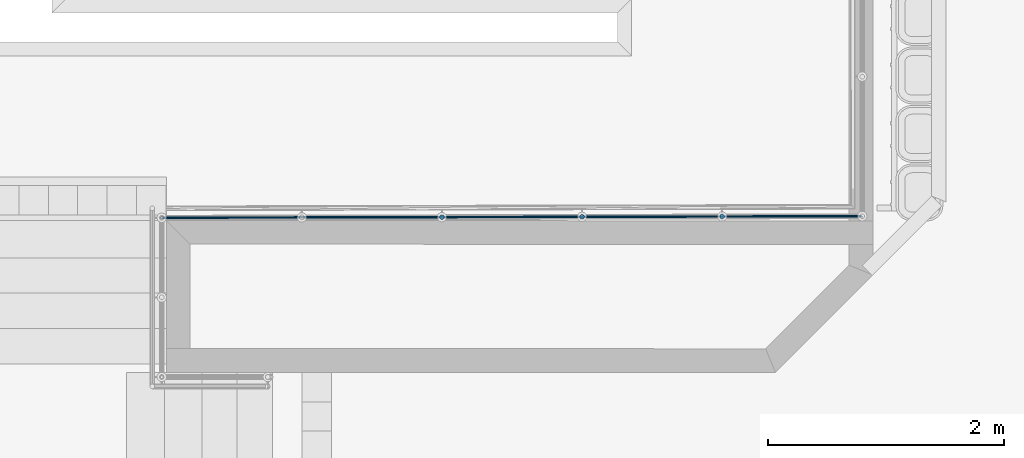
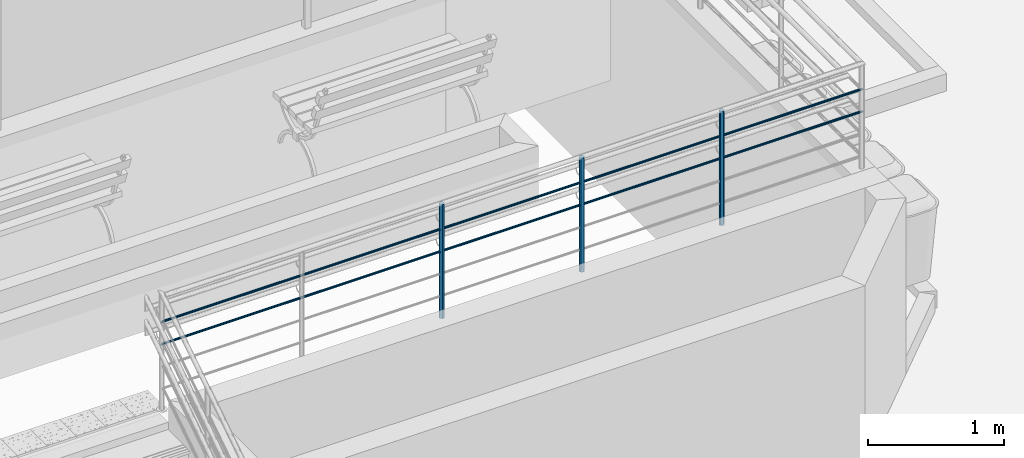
# One storey, part 69 of 237: 5 building element parts, 1 element without a shape of its own.
"""IFC2X3 building model written with IfcOpenShell, lengths in millimetres."""

from ifc_helpers import new_model, entity, si_unit, converted_unit, derived_unit, money_unit, direction, frame, origin_with_axes, place, context, subcontext, project, spatial, faceted_brep, material, type_object, element, aggregate, save


model = new_model("IFC2X3")

# Units and contexts
model_context = context("Model", 3, precision=0.01, world=origin_with_axes(), true_north=direction((0.0, 1.0)))
body_context = subcontext(model_context, "Body", "Model", "MODEL_VIEW")
ifc_project = project(units=[si_unit("LENGTHUNIT", "METRE", prefix="MILLI"), si_unit("AREAUNIT", "SQUARE_METRE"), si_unit("VOLUMEUNIT", "CUBIC_METRE"), converted_unit("PLANEANGLEUNIT", "DEGREE", entity("IfcPlaneAngleMeasure", 0.0174532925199), si_unit("PLANEANGLEUNIT", "RADIAN"), dimensions=[0, 0, 0, 0, 0, 0, 0]), money_unit("USD"), converted_unit("TIMEUNIT", "Year", entity("IfcTimeMeasure", 31556926.0), si_unit("TIMEUNIT", "SECOND"), dimensions=[0, 0, 1, 0, 0, 0, 0]), si_unit("MASSUNIT", "GRAM", prefix="KILO"), si_unit("THERMODYNAMICTEMPERATUREUNIT", "DEGREE_CELSIUS"), si_unit("LUMINOUSINTENSITYUNIT", "LUMEN"), si_unit("ENERGYUNIT", "JOULE", prefix="MEGA"), derived_unit("THERMALCONDUCTANCEUNIT", [(si_unit("POWERUNIT", "WATT"), 1), (si_unit("LENGTHUNIT", "METRE"), -1), (si_unit("THERMODYNAMICTEMPERATUREUNIT", "KELVIN"), -1)]), derived_unit("SPECIFICHEATCAPACITYUNIT", [(si_unit("ENERGYUNIT", "JOULE"), 1), (si_unit("MASSUNIT", "GRAM", prefix="KILO"), -1), (si_unit("THERMODYNAMICTEMPERATUREUNIT", "KELVIN"), -1)]), derived_unit("MASSDENSITYUNIT", [(si_unit("MASSUNIT", "GRAM", prefix="KILO"), 1), (si_unit("VOLUMEUNIT", "CUBIC_METRE"), -1)])], contexts=[model_context])

# Site, building, storey
site_placement = place(None, origin_with_axes())
site = spatial("IfcSite", under=ifc_project, at=site_placement, Name="Local", CompositionType="ELEMENT")
building_placement = place(site_placement, origin_with_axes())
building = spatial("IfcBuilding", under=site, at=building_placement, Name="Construção", CompositionType="ELEMENT")
storey_placement = place(building_placement, origin_with_axes())
storey = spatial("IfcBuildingStorey", under=building, at=storey_placement, Name="Pavimento Térreo", CompositionType="ELEMENT", Elevation=0.0)

# Railing, building element parts
railing_type = type_object("IfcRailingType", Name="Tipo de Guarda-Corpo", PredefinedType="NOTDEFINED")
railing_placement = place(storey_placement, frame((84562.8908804, 21657.2175927, -4868.39227091), z_axis=(0.0, 0.0, 1.0), x_axis=(1.0, 0.0, 0.0)))
railing = element("IfcRailing", 1, at=railing_placement, inside=storey, type_object=railing_type, Name="Guarda-Corpo - 002", PredefinedType="NOTDEFINED")
ifc_material = material(Name="Aço - Inoxidável")
building_element_part_1_placement = place(railing_placement, origin_with_axes())
building_element_part_1 = element("IfcBuildingElementPart", 2, at=building_element_part_1_placement, material=ifc_material, Name="Aço - Inoxidável", context=body_context, shape_type="Brep", body=[
    faceted_brep([(-3843.77565003, 2025.110839, 1951.51033696), (-3843.32082562, 2023.42810791, 1951.96127579), (-3842.58070981, 2021.84992076, 1952.69759917), (-3841.57778776, 2020.42422998, 1953.69693717), (-3840.34253565, 2019.19435445, 1954.92892253), (-3838.91247321, 2018.19765666, 1956.35613474), (-3837.33107074, 2017.46443222, 1957.93519015), (-3835.64637053, 2017.01695764, 1959.61811776), (-3833.90956136, 2016.86883222, 1961.35378267), (-3832.17391982, 2017.02449776, 1963.08894316), (-3830.49068167, 2017.47937857, 1964.77237772), (-3828.91249367, 2018.21950372, 1966.351434), (-3827.48834022, 2019.22134686, 1967.77709944), (-3826.25693786, 2020.45768144, 1969.01061642), (-3825.26169578, 2021.88565835, 1970.00850281), (-3824.52817872, 2023.46664852, 1970.74512169), (-3824.07954091, 2025.15384935, 1971.19722769), (-3823.93165735, 2026.88773952, 1971.34882346), (-3824.08711498, 2028.62680466, 1971.19723277), (-3824.54193692, 2030.30953335, 1970.74629641), (-3825.28205202, 2031.88771683, 1970.00997373), (-3826.2836818, 2033.31156698, 1969.01192336), (-3827.52024547, 2034.543289, 1967.7786311), (-3828.95029959, 2035.53997236, 1966.35142717), (-3830.53078996, 2036.27277056, 1964.77328251), (-3832.21640016, 2036.72065754, 1963.08944623), (-3833.95320798, 2036.86878459, 1961.35378267), (-3835.68935407, 2036.71307031, 1959.61811776), (-3837.37208515, 2036.2582435, 1957.93519015), (-3838.95027229, 2035.51812447, 1956.35613474), (-3840.37595737, 2034.51520686, 1954.92893606), (-3841.60583506, 2033.27995158, 1953.69694538), (-3842.60252716, 2031.84989696, 1952.69760513), (-3843.3357517, 2030.26849449, 1951.96127773), (-3843.7832277, 2028.58379428, 1951.51033844), (-3843.93136117, 2026.8469851, 1951.3584865), (-3833.93222885, 2025.13232065, 1951.50570623), (2112.2204447, 2038.09262627, 1948.70871255), (-3833.92834214, 2023.44860547, 1951.9568575), (2113.90489977, 2036.41332095, 1949.15986296), (-3833.92454788, 2021.86881142, 1952.69352959), (2115.48590382, 2034.83818084, 1949.89653365), (-3833.92096134, 2020.44093975, 1953.69333909), (2116.91541884, 2033.41506579, 1950.89634124), (-3833.91769152, 2019.20837562, 1954.92590728), (2118.15000976, 2032.18721643, 1952.12890708), (-3833.91483775, 2018.20856986, 1956.35378322), (2119.15216413, 2031.19194033, 1953.5567803), (-3833.91248676, 2017.47190106, 1957.93358161), (2119.89143202, 2030.45947846, 1955.13657568), (-3833.91070996, 2017.02075254, 1959.61730109), (2120.34535114, 2030.0120863, 1956.82029194), (2120.50012938, 2029.86335764, 1958.55677021), (2120.35106389, 2030.01781152, 1960.29324848), (2119.90268395, 2030.47075493, 1961.97696474), (2119.16861336, 2031.20842543, 1963.55676012), (2118.17115647, 2032.20840926, 1964.98463334), (2116.94062052, 2033.44032243, 1966.21719918), (2115.51439471, 2034.86673387, 1967.21700677), (2113.9358142, 2036.4443028, 1967.95367746), (2112.25284335, 2038.12509558, 1968.40482787), (2110.51661838, 2039.85804217, 1968.55675003), (2108.77989361, 2041.59048788, 1968.40482787), (2107.09543854, 2043.2697932, 1967.95367746), (2105.51443448, 2044.84493331, 1967.21700677), (2104.08491946, 2046.26804836, 1966.21719918), (2102.85032854, 2047.49589772, 1964.98463334), (2101.84817417, 2048.49117382, 1963.55676012), (2101.10890628, 2049.22363569, 1961.97696474), (2100.65498717, 2049.67102785, 1960.29324848), (-3833.95369349, 2036.7168607, 1959.61730109), (2100.50020892, 2049.81975651, 1958.55677021), (-3833.95350116, 2036.26570873, 1957.93358161), (2100.64927441, 2049.66530263, 1956.82029194), (-3833.95263683, 2035.52903669, 1956.35378322), (2101.09765435, 2049.21235922, 1955.13657568), (2101.83172494, 2048.47468872, 1953.5567803), (-3833.95112677, 2034.529228, 1954.92590728), (-3833.94901685, 2033.29666133, 1953.69333909), (2102.82918183, 2047.47470489, 1952.12890708), (-3833.94637119, 2031.86878761, 1952.69352959), (2104.05971778, 2046.24279172, 1950.89634124), (2105.48594359, 2044.81638028, 1949.89653365), (-3833.94327016, 2030.28899205, 1951.9568575), (2107.0645241, 2043.23881135, 1949.15986296), (-3833.93980801, 2028.60527594, 1951.50570623), (2108.74749496, 2041.55801857, 1948.70871255), (-3833.93608991, 2026.86879814, 1951.35378378), (2110.48371992, 2039.82507198, 1948.55679039)], [[[0, 1, 2, 3, 4, 5, 6, 7, 8, 9, 10, 11, 12, 13, 14, 15, 16, 17, 18, 19, 20, 21, 22, 23, 24, 25, 26, 27, 28, 29, 30, 31, 32, 33, 34, 35]], [[1, 0, 36, 37, 38]], [[2, 1, 38, 39, 40]], [[3, 2, 40, 41, 42]], [[4, 3, 42, 43, 44]], [[5, 4, 44, 45, 46]], [[6, 5, 46, 47, 48]], [[7, 6, 48, 49, 50]], [[7, 50, 51, 8]], [[9, 8, 52]], [[10, 9, 53]], [[11, 10, 54]], [[12, 11, 55]], [[13, 12, 56]], [[14, 13, 57]], [[15, 14, 58]], [[16, 15, 59]], [[17, 16, 60]], [[18, 17, 61]], [[19, 18, 62]], [[20, 19, 63]], [[21, 20, 64]], [[22, 21, 65]], [[23, 22, 66]], [[24, 23, 67]], [[25, 24, 68]], [[26, 25, 69]], [[70, 27, 26, 71]], [[72, 28, 27, 70, 73]], [[74, 29, 28, 72, 75]], [[30, 29, 74, 76, 77]], [[78, 31, 30, 77, 79]], [[80, 32, 31, 78, 81]], [[33, 32, 80, 82, 83]], [[34, 33, 83, 84, 85]], [[35, 34, 85, 86, 87]], [[0, 35, 87, 88, 36]], [[36, 88, 37]], [[39, 38, 37]], [[41, 40, 39]], [[43, 42, 41]], [[44, 43, 45]], [[47, 46, 45]], [[48, 47, 49]], [[50, 49, 51]], [[8, 51, 52]], [[53, 9, 52]], [[54, 10, 53]], [[55, 11, 54]], [[56, 12, 55]], [[57, 13, 56]], [[58, 14, 57]], [[15, 58, 59]], [[59, 60, 16]], [[61, 17, 60]], [[62, 18, 61]], [[63, 19, 62]], [[64, 20, 63]], [[64, 65, 21]], [[65, 66, 22]], [[66, 67, 23]], [[68, 24, 67]], [[69, 25, 68]], [[71, 26, 69]], [[73, 70, 71]], [[75, 72, 73]], [[76, 74, 75]], [[79, 77, 76]], [[81, 78, 79]], [[82, 80, 81]], [[84, 83, 82]], [[85, 84, 86]], [[87, 86, 88]], [[82, 81, 79, 76, 75, 73, 71, 69, 68, 67, 66, 65, 64, 63, 62, 61, 60, 59, 58, 57, 56, 55, 54, 53, 52, 51, 49, 47, 45, 43, 41, 39, 37, 88, 86, 84]]]),
])
building_element_part_2_placement = place(railing_placement, origin_with_axes())
building_element_part_2 = element("IfcBuildingElementPart", 3, at=building_element_part_2_placement, material=ifc_material, Name="Aço - Inoxidável", context=body_context, shape_type="Brep", body=[
    faceted_brep([(-3843.77565003, 2025.110839, 2151.51033696), (-3843.32082562, 2023.42810791, 2151.96127579), (-3842.58070981, 2021.84992076, 2152.69759917), (-3841.57778776, 2020.42422998, 2153.69693717), (-3840.34253565, 2019.19435445, 2154.92892253), (-3838.91247321, 2018.19765666, 2156.35613474), (-3837.33107074, 2017.46443222, 2157.93519015), (-3835.64637053, 2017.01695764, 2159.61811776), (-3833.90956136, 2016.86883222, 2161.35378267), (-3832.17391982, 2017.02449776, 2163.08894316), (-3830.49068167, 2017.47937857, 2164.77237772), (-3828.91249367, 2018.21950372, 2166.351434), (-3827.48834022, 2019.22134686, 2167.77709944), (-3826.25693786, 2020.45768144, 2169.01061642), (-3825.26169578, 2021.88565835, 2170.00850281), (-3824.52817872, 2023.46664852, 2170.74512169), (-3824.07954091, 2025.15384935, 2171.19722769), (-3823.93165735, 2026.88773952, 2171.34882346), (-3824.08711498, 2028.62680466, 2171.19723277), (-3824.54193692, 2030.30953335, 2170.74629641), (-3825.28205202, 2031.88771683, 2170.00997373), (-3826.2836818, 2033.31156698, 2169.01192336), (-3827.52024547, 2034.543289, 2167.7786311), (-3828.95029959, 2035.53997236, 2166.35142717), (-3830.53078996, 2036.27277056, 2164.77328251), (-3832.21640016, 2036.72065754, 2163.08944623), (-3833.95320798, 2036.86878459, 2161.35378267), (-3835.68935407, 2036.71307031, 2159.61811776), (-3837.37208515, 2036.2582435, 2157.93519015), (-3838.95027229, 2035.51812447, 2156.35613474), (-3840.37595737, 2034.51520686, 2154.92893606), (-3841.60583506, 2033.27995158, 2153.69694538), (-3842.60252716, 2031.84989696, 2152.69760513), (-3843.3357517, 2030.26849449, 2151.96127773), (-3843.7832277, 2028.58379428, 2151.51033844), (-3843.93136117, 2026.8469851, 2151.3584865), (-3833.93222885, 2025.13232065, 2151.50570623), (2112.2204447, 2038.09262627, 2148.70871255), (-3833.92834214, 2023.44860547, 2151.9568575), (2113.90489977, 2036.41332095, 2149.15986296), (-3833.92454788, 2021.86881142, 2152.69352959), (2115.48590382, 2034.83818084, 2149.89653365), (-3833.92096134, 2020.44093975, 2153.69333909), (2116.91541884, 2033.41506579, 2150.89634124), (-3833.91769152, 2019.20837562, 2154.92590728), (2118.15000976, 2032.18721643, 2152.12890708), (-3833.91483775, 2018.20856986, 2156.35378322), (2119.15216413, 2031.19194033, 2153.5567803), (-3833.91248676, 2017.47190106, 2157.93358161), (2119.89143202, 2030.45947846, 2155.13657568), (-3833.91070996, 2017.02075254, 2159.61730109), (2120.34535114, 2030.0120863, 2156.82029194), (2120.50012938, 2029.86335764, 2158.55677021), (2120.35106389, 2030.01781152, 2160.29324848), (2119.90268395, 2030.47075493, 2161.97696474), (2119.16861336, 2031.20842543, 2163.55676012), (2118.17115647, 2032.20840926, 2164.98463334), (2116.94062052, 2033.44032243, 2166.21719918), (2115.51439471, 2034.86673387, 2167.21700677), (2113.9358142, 2036.4443028, 2167.95367746), (2112.25284335, 2038.12509558, 2168.40482787), (2110.51661838, 2039.85804217, 2168.55675003), (2108.77989361, 2041.59048788, 2168.40482787), (2107.09543854, 2043.2697932, 2167.95367746), (2105.51443448, 2044.84493331, 2167.21700677), (2104.08491946, 2046.26804836, 2166.21719918), (2102.85032854, 2047.49589772, 2164.98463334), (2101.84817417, 2048.49117382, 2163.55676012), (2101.10890628, 2049.22363569, 2161.97696474), (2100.65498717, 2049.67102785, 2160.29324848), (-3833.95369349, 2036.7168607, 2159.61730109), (2100.50020892, 2049.81975651, 2158.55677021), (-3833.95350116, 2036.26570873, 2157.93358161), (2100.64927441, 2049.66530263, 2156.82029194), (-3833.95263683, 2035.52903669, 2156.35378322), (2101.09765435, 2049.21235922, 2155.13657568), (2101.83172494, 2048.47468872, 2153.5567803), (-3833.95112677, 2034.529228, 2154.92590728), (-3833.94901685, 2033.29666133, 2153.69333909), (2102.82918183, 2047.47470489, 2152.12890708), (-3833.94637119, 2031.86878761, 2152.69352959), (2104.05971778, 2046.24279172, 2150.89634124), (2105.48594359, 2044.81638028, 2149.89653365), (-3833.94327016, 2030.28899205, 2151.9568575), (2107.0645241, 2043.23881135, 2149.15986296), (-3833.93980801, 2028.60527594, 2151.50570623), (2108.74749496, 2041.55801857, 2148.70871255), (-3833.93608991, 2026.86879814, 2151.35378378), (2110.48371992, 2039.82507198, 2148.55679039)], [[[0, 1, 2, 3, 4, 5, 6, 7, 8, 9, 10, 11, 12, 13, 14, 15, 16, 17, 18, 19, 20, 21, 22, 23, 24, 25, 26, 27, 28, 29, 30, 31, 32, 33, 34, 35]], [[1, 0, 36, 37, 38]], [[2, 1, 38, 39, 40]], [[3, 2, 40, 41, 42]], [[4, 3, 42, 43, 44]], [[5, 4, 44, 45, 46]], [[6, 5, 46, 47, 48]], [[7, 6, 48, 49, 50]], [[7, 50, 51, 8]], [[9, 8, 52]], [[10, 9, 53]], [[11, 10, 54]], [[12, 11, 55]], [[13, 12, 56]], [[14, 13, 57]], [[15, 14, 58]], [[16, 15, 59]], [[17, 16, 60]], [[18, 17, 61]], [[19, 18, 62]], [[20, 19, 63]], [[21, 20, 64]], [[22, 21, 65]], [[23, 22, 66]], [[24, 23, 67]], [[25, 24, 68]], [[26, 25, 69]], [[70, 27, 26, 71]], [[72, 28, 27, 70, 73]], [[74, 29, 28, 72, 75]], [[30, 29, 74, 76, 77]], [[78, 31, 30, 77, 79]], [[80, 32, 31, 78, 81]], [[33, 32, 80, 82, 83]], [[34, 33, 83, 84, 85]], [[35, 34, 85, 86, 87]], [[0, 35, 87, 88, 36]], [[36, 88, 37]], [[39, 38, 37]], [[41, 40, 39]], [[43, 42, 41]], [[44, 43, 45]], [[47, 46, 45]], [[48, 47, 49]], [[50, 49, 51]], [[8, 51, 52]], [[53, 9, 52]], [[54, 10, 53]], [[55, 11, 54]], [[56, 12, 55]], [[57, 13, 56]], [[58, 14, 57]], [[15, 58, 59]], [[59, 60, 16]], [[61, 17, 60]], [[62, 18, 61]], [[63, 19, 62]], [[64, 20, 63]], [[64, 65, 21]], [[65, 66, 22]], [[66, 67, 23]], [[68, 24, 67]], [[69, 25, 68]], [[71, 26, 69]], [[73, 70, 71]], [[75, 72, 73]], [[76, 74, 75]], [[79, 77, 76]], [[81, 78, 79]], [[82, 80, 81]], [[84, 83, 82]], [[85, 84, 86]], [[87, 86, 88]], [[84, 82, 81, 79, 76, 75, 73, 71, 69, 68, 67, 66, 65, 64, 63, 62, 61, 60, 59, 58, 57, 56, 55, 54, 53, 52, 51, 49, 47, 45, 43, 41, 39, 37, 88, 86]]]),
])
building_element_part_3_placement = place(railing_placement, origin_with_axes())
building_element_part_3 = element("IfcBuildingElementPart", 4, at=building_element_part_3_placement, material=ifc_material, Name="Aço - Inoxidável", context=body_context, shape_type="Brep", body=[
    faceted_brep([(-1459.58873489, 2012.35422056, 1365.23497769), (-1456.11511652, 2012.0579555, 1365.23497769), (-1456.11511652, 2012.0579555, 2390.23497769), (-1459.58873489, 2012.35422056, 2390.2366118), (-1452.64282433, 2012.36937887, 1365.23497769), (-1462.95813531, 2013.24917219, 1365.23497769), (-1466.12094025, 2014.71561773, 1365.23497769), (-1468.98104947, 2016.70899999, 1365.23497769), (-1471.45156001, 2019.16875104, 1365.23497769), (-1473.45740666, 2022.0201326, 1365.23497769), (-1474.93764278, 2025.17650689, 1365.23497769), (-1475.84729214, 2028.54196906, 1365.23497769), (-1476.15871552, 2032.01426125, 1365.23497769), (-1475.86245046, 2035.48787963, 1365.23497769), (-1474.96749883, 2038.85728004, 1365.23497769), (-1473.50105328, 2042.02008498, 1365.23497769), (-1471.50767103, 2044.8801942, 1365.23497769), (-1469.04791998, 2047.35070475, 1365.23497769), (-1466.19653841, 2049.35655139, 1365.23497769), (-1463.04016413, 2050.83678751, 1365.23497769), (-1459.67470196, 2051.74643688, 1365.23497769), (-1456.20240976, 2052.05786025, 1365.23497769), (-1452.72879139, 2051.76159519, 1365.23497769), (-1449.35939097, 2050.86664356, 1365.23497769), (-1446.19658604, 2049.40019802, 1365.23497769), (-1443.33647681, 2047.40681576, 1365.23497769), (-1440.86596627, 2044.94706471, 1365.23497769), (-1438.86011962, 2042.09568314, 1365.23497769), (-1437.3798835, 2038.93930886, 1365.23497769), (-1436.47023414, 2035.57384669, 1365.23497769), (-1436.15881077, 2032.1015545, 1365.23497769), (-1436.45507583, 2028.62793612, 1365.23497769), (-1437.35002746, 2025.2585357, 1365.23497769), (-1438.816473, 2022.09573077, 1365.23497769), (-1440.80985526, 2019.23562155, 1365.23497769), (-1443.26960631, 2016.765111, 1365.23497769), (-1446.12098787, 2014.75926435, 1365.23497769), (-1449.27736216, 2013.27902824, 1365.23497769), (-1452.64282433, 2012.36937887, 2390.23334357), (-1475.86245046, 2035.48787963, 2390.24424523), (-1476.15871552, 2032.01426125, 2390.24438819), (-1475.84729214, 2028.54196906, 2390.24424523), (-1474.93764278, 2025.17650689, 2390.24382067), (-1473.45740666, 2022.0201326, 2390.24312742), (-1471.45156001, 2019.16875104, 2390.24218655), (-1468.98104947, 2016.70899999, 2390.24102664), (-1466.12094025, 2014.71561773, 2390.23968294), (-1462.95813531, 2013.24917219, 2390.23819627), (-1449.27736216, 2013.27902824, 2390.2317591), (-1446.12098787, 2014.75926435, 2390.23027243), (-1443.26960631, 2016.765111, 2390.22892873), (-1440.80985526, 2019.23562155, 2390.22776882), (-1438.816473, 2022.09573077, 2390.22682795), (-1437.35002746, 2025.2585357, 2390.2261347), (-1436.45507583, 2028.62793612, 2390.22571015), (-1436.15881077, 2032.1015545, 2390.22556718), (-1436.47023414, 2035.57384669, 2390.22571015), (-1437.3798835, 2038.93930886, 2390.2261347), (-1438.86011962, 2042.09568314, 2390.22682795), (-1440.86596627, 2044.94706471, 2390.22776882), (-1443.33647681, 2047.40681576, 2390.22892873), (-1446.19658604, 2049.40019802, 2390.23027243), (-1449.35939097, 2050.86664356, 2390.2317591), (-1452.72879139, 2051.76159519, 2390.23334357), (-1456.20240976, 2052.05786025, 2390.23497769), (-1459.67470196, 2051.74643688, 2390.2366118), (-1463.04016413, 2050.83678751, 2390.23819627), (-1466.19653841, 2049.35655139, 2390.23968294), (-1469.04791998, 2047.35070475, 2390.24102664), (-1471.50767103, 2044.8801942, 2390.24218655), (-1473.50105328, 2042.02008498, 2390.24312742), (-1474.96749883, 2038.85728004, 2390.24382067)], [[[0, 1, 2, 3]], [[4, 1, 0, 5, 6, 7, 8, 9, 10, 11, 12, 13, 14, 15, 16, 17, 18, 19, 20, 21, 22, 23, 24, 25, 26, 27, 28, 29, 30, 31, 32, 33, 34, 35, 36, 37]], [[1, 4, 38, 2]], [[39, 40, 41, 42, 43, 44, 45, 46, 47, 3, 2, 38, 48, 49, 50, 51, 52, 53, 54, 55, 56, 57, 58, 59, 60, 61, 62, 63, 64, 65, 66, 67, 68, 69, 70, 71]], [[5, 0, 3, 47]], [[6, 5, 47, 46]], [[7, 6, 46, 45]], [[8, 7, 45, 44]], [[9, 8, 44, 43]], [[10, 9, 43, 42]], [[11, 10, 42, 41]], [[12, 11, 41, 40]], [[13, 12, 40, 39]], [[14, 13, 39, 71]], [[15, 14, 71, 70]], [[16, 15, 70, 69]], [[17, 16, 69, 68]], [[18, 17, 68, 67]], [[19, 18, 67, 66]], [[20, 19, 66, 65]], [[21, 20, 65, 64]], [[22, 21, 64, 63]], [[23, 22, 63, 62]], [[24, 23, 62, 61]], [[25, 24, 61, 60]], [[26, 25, 60, 59]], [[27, 26, 59, 58]], [[28, 27, 58, 57]], [[29, 28, 57, 56]], [[30, 29, 56, 55]], [[31, 30, 55, 54]], [[32, 31, 54, 53]], [[33, 32, 53, 52]], [[34, 33, 52, 51]], [[35, 34, 51, 50]], [[36, 35, 50, 49]], [[37, 36, 49, 48]], [[4, 37, 48, 38]]]),
])
building_element_part_4_placement = place(railing_placement, origin_with_axes())
building_element_part_4 = element("IfcBuildingElementPart", 5, at=building_element_part_4_placement, material=ifc_material, Name="Aço - Inoxidável", context=body_context, shape_type="Brep", body=[
    faceted_brep([(-270.70242413, 2014.94877029, 1364.67557519), (-267.228805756, 2014.65250523, 1364.67557519), (-267.228805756, 2014.65250523, 2389.67557519), (-270.70242413, 2014.94877029, 2389.67720931), (-263.756513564, 2014.96392861, 1364.67557519), (-274.071824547, 2015.84372192, 1364.67557519), (-277.234629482, 2017.31016747, 1364.67557519), (-280.094738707, 2019.30354972, 1364.67557519), (-282.56524925, 2021.76330077, 1364.67557519), (-284.571095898, 2024.61468234, 1364.67557519), (-286.051332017, 2027.77105662, 1364.67557519), (-286.96098138, 2031.13651879, 1364.67557519), (-287.272404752, 2034.60881099, 1364.67557519), (-286.976139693, 2038.08242936, 1364.67557519), (-286.081188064, 2041.45182978, 1364.67557519), (-284.61474252, 2044.61463471, 1364.67557519), (-282.621360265, 2047.47474394, 1364.67557519), (-280.161609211, 2049.94525448, 1364.67557519), (-277.310227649, 2051.95110113, 1364.67557519), (-274.153853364, 2053.43133725, 1364.67557519), (-270.788391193, 2054.34098661, 1364.67557519), (-267.316099, 2054.65240998, 1364.67557519), (-263.842480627, 2054.35614492, 1364.67557519), (-260.473080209, 2053.46119329, 1364.67557519), (-257.310275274, 2051.99474775, 1364.67557519), (-254.45016605, 2050.00136549, 1364.67557519), (-251.979655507, 2047.54161444, 1364.67557519), (-249.973808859, 2044.69023288, 1364.67557519), (-248.49357274, 2041.53385859, 1364.67557519), (-247.583923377, 2038.16839642, 1364.67557519), (-247.272500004, 2034.69610423, 1364.67557519), (-247.568765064, 2031.22248586, 1364.67557519), (-248.463716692, 2027.85308544, 1364.67557519), (-249.930162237, 2024.6902805, 1364.67557519), (-251.923544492, 2021.83017128, 1364.67557519), (-254.383295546, 2019.35966074, 1364.67557519), (-257.234677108, 2017.35381409, 1364.67557519), (-260.391051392, 2015.87357797, 1364.67557519), (-263.756513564, 2014.96392861, 2389.67394108), (-286.976139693, 2038.08242936, 2389.68484274), (-287.272404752, 2034.60881099, 2389.6849857), (-286.96098138, 2031.13651879, 2389.68484274), (-286.051332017, 2027.77105662, 2389.68441818), (-284.571095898, 2024.61468234, 2389.68372493), (-282.56524925, 2021.76330077, 2389.68278406), (-280.094738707, 2019.30354972, 2389.68162415), (-277.234629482, 2017.31016747, 2389.68028045), (-274.071824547, 2015.84372192, 2389.67879378), (-260.391051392, 2015.87357797, 2389.67235661), (-257.234677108, 2017.35381409, 2389.67086994), (-254.383295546, 2019.35966074, 2389.66952624), (-251.923544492, 2021.83017128, 2389.66836633), (-249.930162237, 2024.6902805, 2389.66742546), (-248.463716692, 2027.85308544, 2389.66673221), (-247.568765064, 2031.22248586, 2389.66630765), (-247.272500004, 2034.69610423, 2389.66616469), (-247.583923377, 2038.16839642, 2389.66630765), (-248.49357274, 2041.53385859, 2389.66673221), (-249.973808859, 2044.69023288, 2389.66742546), (-251.979655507, 2047.54161444, 2389.66836633), (-254.45016605, 2050.00136549, 2389.66952624), (-257.310275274, 2051.99474775, 2389.67086994), (-260.473080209, 2053.46119329, 2389.67235661), (-263.842480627, 2054.35614492, 2389.67394108), (-267.316099, 2054.65240998, 2389.67557519), (-270.788391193, 2054.34098661, 2389.67720931), (-274.153853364, 2053.43133725, 2389.67879378), (-277.310227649, 2051.95110113, 2389.68028045), (-280.161609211, 2049.94525448, 2389.68162415), (-282.621360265, 2047.47474394, 2389.68278406), (-284.61474252, 2044.61463471, 2389.68372493), (-286.081188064, 2041.45182978, 2389.68441818)], [[[0, 1, 2, 3]], [[4, 1, 0, 5, 6, 7, 8, 9, 10, 11, 12, 13, 14, 15, 16, 17, 18, 19, 20, 21, 22, 23, 24, 25, 26, 27, 28, 29, 30, 31, 32, 33, 34, 35, 36, 37]], [[1, 4, 38, 2]], [[39, 40, 41, 42, 43, 44, 45, 46, 47, 3, 2, 38, 48, 49, 50, 51, 52, 53, 54, 55, 56, 57, 58, 59, 60, 61, 62, 63, 64, 65, 66, 67, 68, 69, 70, 71]], [[5, 0, 3, 47]], [[6, 5, 47, 46]], [[7, 6, 46, 45]], [[8, 7, 45, 44]], [[9, 8, 44, 43]], [[10, 9, 43, 42]], [[11, 10, 42, 41]], [[12, 11, 41, 40]], [[13, 12, 40, 39]], [[14, 13, 39, 71]], [[15, 14, 71, 70]], [[16, 15, 70, 69]], [[17, 16, 69, 68]], [[18, 17, 68, 67]], [[19, 18, 67, 66]], [[20, 19, 66, 65]], [[21, 20, 65, 64]], [[22, 21, 64, 63]], [[23, 22, 63, 62]], [[24, 23, 62, 61]], [[25, 24, 61, 60]], [[26, 25, 60, 59]], [[27, 26, 59, 58]], [[28, 27, 58, 57]], [[29, 28, 57, 56]], [[30, 29, 56, 55]], [[31, 30, 55, 54]], [[32, 31, 54, 53]], [[33, 32, 53, 52]], [[34, 33, 52, 51]], [[35, 34, 51, 50]], [[36, 35, 50, 49]], [[37, 36, 49, 48]], [[4, 37, 48, 38]]]),
])
building_element_part_5_placement = place(railing_placement, origin_with_axes())
building_element_part_5 = element("IfcBuildingElementPart", 6, at=building_element_part_5_placement, material=ifc_material, Name="Aço - Inoxidável", context=body_context, shape_type="Brep", body=[
    faceted_brep([(918.183886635, 2017.54332003, 1364.1161727), (921.657505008, 2017.24705497, 1364.1161727), (921.657505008, 2017.24705497, 2389.1161727), (918.183886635, 2017.54332003, 2389.11780682), (925.129797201, 2017.55847834, 1364.1161727), (914.814486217, 2018.43827165, 1364.1161727), (911.651681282, 2019.9047172, 1364.1161727), (908.791572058, 2021.89809945, 1364.1161727), (906.321061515, 2024.35785051, 1364.1161727), (904.315214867, 2027.20923207, 1364.1161727), (902.834978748, 2030.36560635, 1364.1161727), (901.925329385, 2033.73106853, 1364.1161727), (901.613906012, 2037.20336072, 1364.1161727), (901.910171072, 2040.67697909, 1364.1161727), (902.8051227, 2044.04637951, 1364.1161727), (904.271568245, 2047.20918444, 1364.1161727), (906.2649505, 2050.06929367, 1364.1161727), (908.724701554, 2052.53980421, 1364.1161727), (911.576083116, 2054.54565086, 1364.1161727), (914.7324574, 2056.02588698, 1364.1161727), (918.097919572, 2056.93553634, 1364.1161727), (921.570211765, 2057.24695971, 1364.1161727), (925.043830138, 2056.95069466, 1364.1161727), (928.413230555, 2056.05574303, 1364.1161727), (931.57603549, 2054.58929748, 1364.1161727), (934.436144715, 2052.59591523, 1364.1161727), (936.906655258, 2050.13616417, 1364.1161727), (938.912501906, 2047.28478261, 1364.1161727), (940.392738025, 2044.12840833, 1364.1161727), (941.302387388, 2040.76294616, 1364.1161727), (941.613810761, 2037.29065396, 1364.1161727), (941.317545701, 2033.81703559, 1364.1161727), (940.422594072, 2030.44763517, 1364.1161727), (938.956148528, 2027.28483024, 1364.1161727), (936.962766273, 2024.42472101, 1364.1161727), (934.503015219, 2021.95421047, 1364.1161727), (931.651633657, 2019.94836382, 1364.1161727), (928.495259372, 2018.4681277, 1364.1161727), (925.129797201, 2017.55847834, 2389.11453859), (901.910171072, 2040.67697909, 2389.12544024), (901.613906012, 2037.20336072, 2389.12558321), (901.925329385, 2033.73106853, 2389.12544024), (902.834978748, 2030.36560635, 2389.12501569), (904.315214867, 2027.20923207, 2389.12432244), (906.321061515, 2024.35785051, 2389.12338157), (908.791572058, 2021.89809945, 2389.12222166), (911.651681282, 2019.9047172, 2389.12087796), (914.814486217, 2018.43827165, 2389.11939129), (928.495259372, 2018.4681277, 2389.11295412), (931.651633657, 2019.94836382, 2389.11146745), (934.503015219, 2021.95421047, 2389.11012375), (936.962766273, 2024.42472101, 2389.10896384), (938.956148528, 2027.28483024, 2389.10802296), (940.422594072, 2030.44763517, 2389.10732972), (941.317545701, 2033.81703559, 2389.10690516), (941.613810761, 2037.29065396, 2389.1067622), (941.302387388, 2040.76294616, 2389.10690516), (940.392738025, 2044.12840833, 2389.10732972), (938.912501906, 2047.28478261, 2389.10802296), (936.906655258, 2050.13616417, 2389.10896384), (934.436144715, 2052.59591523, 2389.11012375), (931.57603549, 2054.58929748, 2389.11146745), (928.413230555, 2056.05574303, 2389.11295412), (925.043830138, 2056.95069466, 2389.11453859), (921.570211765, 2057.24695971, 2389.1161727), (918.097919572, 2056.93553634, 2389.11780682), (914.7324574, 2056.02588698, 2389.11939129), (911.576083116, 2054.54565086, 2389.12087796), (908.724701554, 2052.53980421, 2389.12222166), (906.2649505, 2050.06929367, 2389.12338157), (904.271568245, 2047.20918444, 2389.12432244), (902.8051227, 2044.04637951, 2389.12501569)], [[[0, 1, 2, 3]], [[4, 1, 0, 5, 6, 7, 8, 9, 10, 11, 12, 13, 14, 15, 16, 17, 18, 19, 20, 21, 22, 23, 24, 25, 26, 27, 28, 29, 30, 31, 32, 33, 34, 35, 36, 37]], [[1, 4, 38, 2]], [[39, 40, 41, 42, 43, 44, 45, 46, 47, 3, 2, 38, 48, 49, 50, 51, 52, 53, 54, 55, 56, 57, 58, 59, 60, 61, 62, 63, 64, 65, 66, 67, 68, 69, 70, 71]], [[5, 0, 3, 47]], [[6, 5, 47, 46]], [[7, 6, 46, 45]], [[8, 7, 45, 44]], [[9, 8, 44, 43]], [[10, 9, 43, 42]], [[11, 10, 42, 41]], [[12, 11, 41, 40]], [[13, 12, 40, 39]], [[14, 13, 39, 71]], [[15, 14, 71, 70]], [[16, 15, 70, 69]], [[17, 16, 69, 68]], [[18, 17, 68, 67]], [[19, 18, 67, 66]], [[20, 19, 66, 65]], [[21, 20, 65, 64]], [[22, 21, 64, 63]], [[23, 22, 63, 62]], [[24, 23, 62, 61]], [[25, 24, 61, 60]], [[26, 25, 60, 59]], [[27, 26, 59, 58]], [[28, 27, 58, 57]], [[29, 28, 57, 56]], [[30, 29, 56, 55]], [[31, 30, 55, 54]], [[32, 31, 54, 53]], [[33, 32, 53, 52]], [[34, 33, 52, 51]], [[35, 34, 51, 50]], [[36, 35, 50, 49]], [[37, 36, 49, 48]], [[4, 37, 48, 38]]]),
])
aggregate(railing, [building_element_part_1, building_element_part_2, building_element_part_3, building_element_part_4, building_element_part_5])

save(model, "model.ifc")
